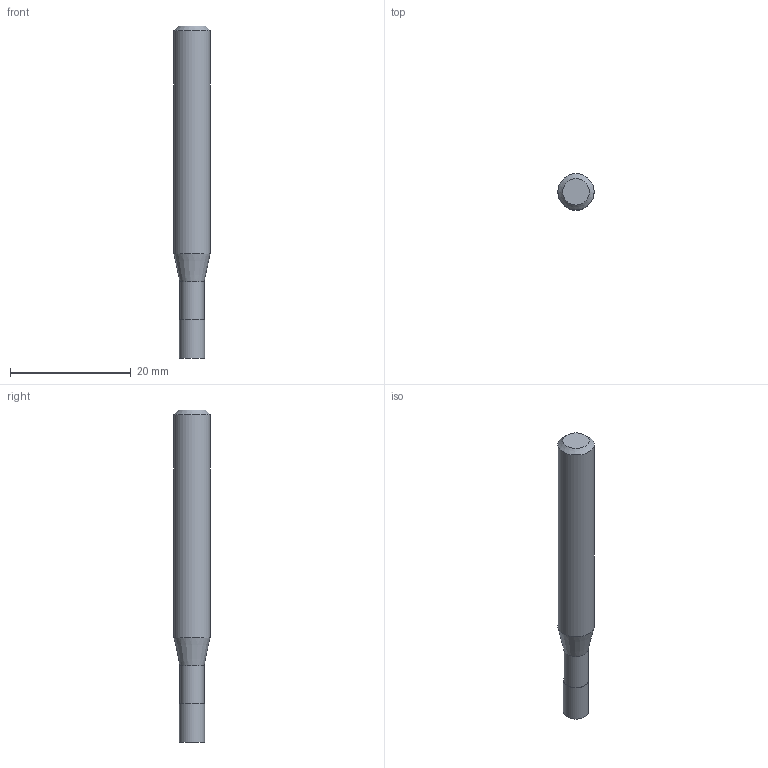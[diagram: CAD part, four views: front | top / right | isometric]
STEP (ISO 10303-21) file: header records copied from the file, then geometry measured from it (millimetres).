
FILE_DESCRIPTION((''),'2;1');
FILE_NAME('C:\Users\nsx150\AppData\Local\Temp\Mastercam 2021\EUJSUNXURU\TEMP.step','2021-04-22T10:28:19',(''),(''),'STEP Write','Mastercam 2021 ... CNC Software, Inc.','');
FILE_SCHEMA(('AUTOMOTIVE_DESIGN'));
Length unit declared in the file: millimetre
Products named in the file (1): None
Bounding box: 6 x 6 x 55 mm (x, y, z)
Volume: 1320.4 mm3; surface area: 1007.3 mm2
Topology: 2 solids, 2 shells, 9 faces, 12 edges, 7 vertices
Faces by surface type: plane 4, cylinder 3, cone 2
Full cylindrical faces by diameter (mm): 4 x1, 4.2 x1, 6 x1
Entity records: 211 total; most frequent: DIRECTION 36, CARTESIAN_POINT 25, AXIS2_PLACEMENT_3D 18, ORIENTED_EDGE 14, EDGE_LOOP 14, STYLED_ITEM 12, ADVANCED_FACE 9, FACE_BOUND 8
